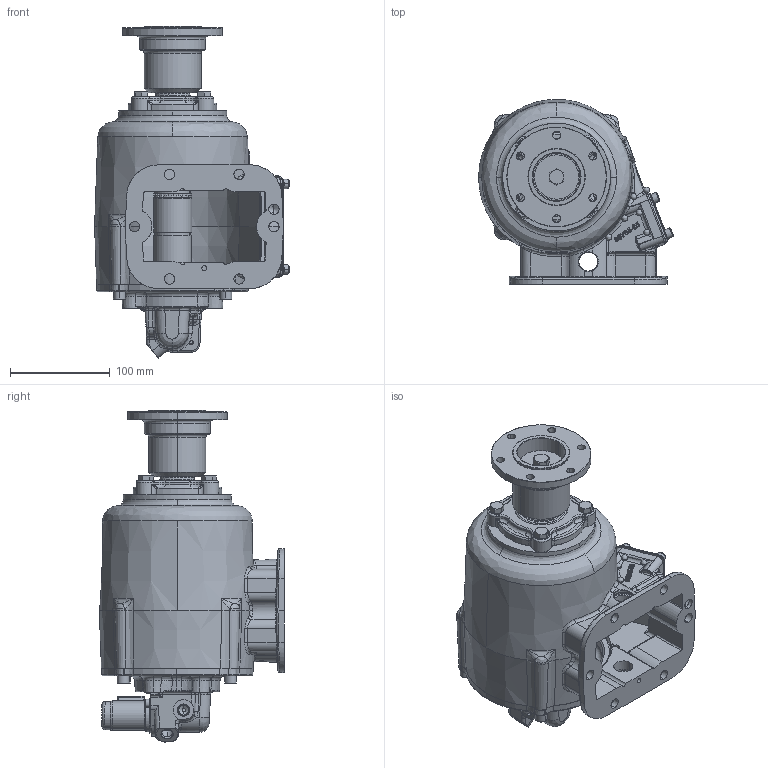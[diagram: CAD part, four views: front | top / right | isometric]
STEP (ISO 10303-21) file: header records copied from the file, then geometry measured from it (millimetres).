
FILE_DESCRIPTION (( 'STEP AP203' ), '1' );
FILE_NAME ('CS6S-XXXXX-S32X.STEP', '2023-05-31T14:04:08', ( '' ), ( '' ), 'SwSTEP 2.0', 'SolidWorks 2021', '' );
FILE_SCHEMA (( 'CONFIG_CONTROL_DESIGN' ));
Length unit declared in the file: inch
Products named in the file (16): 01T37072; 19T41118; 21T20092; 11T37790; 15TA5220_Config1; 19T38266; 19T40859; 06T37372_06T37372; 19T41756; CS6S-XXXXX-S32X; 15T41597; 15T41683; 14T37378; 35T40860-2; 16T41119; 19T35237
Assembly tree (25 placements, depth 3):
  CS6S-XXXXX-S32X
    01T37072
    16T41119
    19T35237  x4
    19T41118  x4
    15T41597
    35T40860-2
    19T40859  x2
    15TA5220_Config1
      15T41683
      11T37790
    19T41756  x4
    06T37372_06T37372
    14T37378
    19T38266
    21T20092
Bounding box: 195.33 x 185.25 x 332.83 mm (x, y, z)
Volume: 1577103.3 mm3; surface area: 449630 mm2
Topology: 25 solids, 25 shells, 2927 faces, 7416 edges, 4554 vertices
Faces by surface type: bspline 868, plane 767, cylinder 717, cone 359, torus 212, sphere 4
Entity records: 217887 total; most frequent: CARTESIAN_POINT 158504, ORIENTED_EDGE 13470, DIRECTION 9555, EDGE_CURVE 6735, VERTEX_POINT 4216, AXIS2_PLACEMENT_3D 3706, EDGE_LOOP 2913, ADVANCED_FACE 2678
